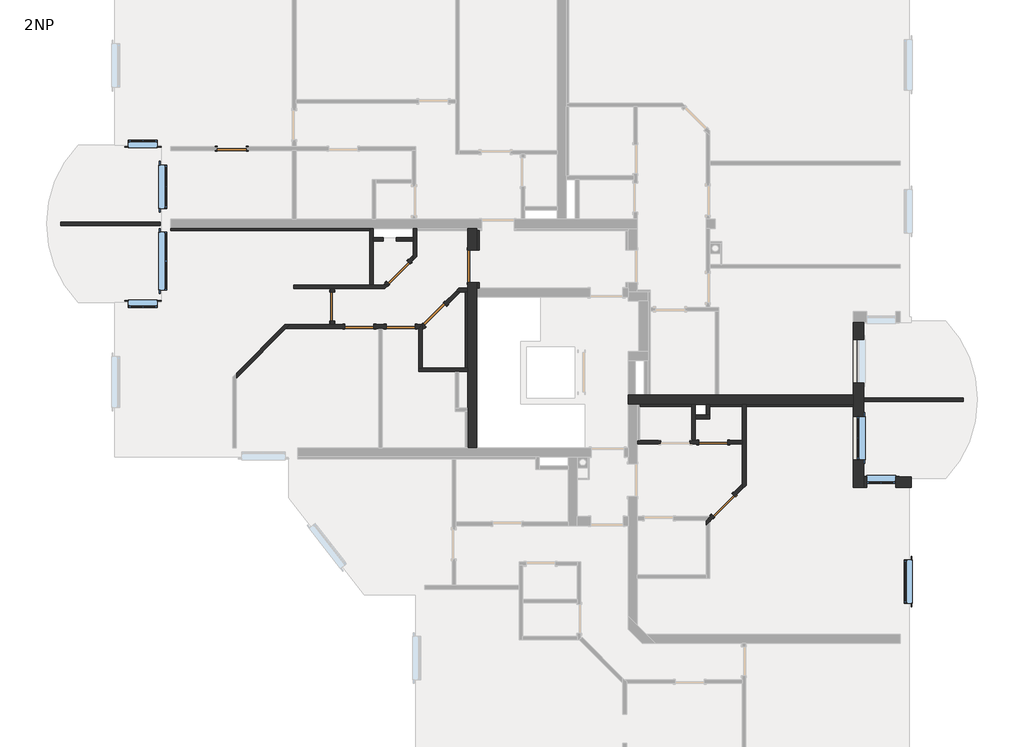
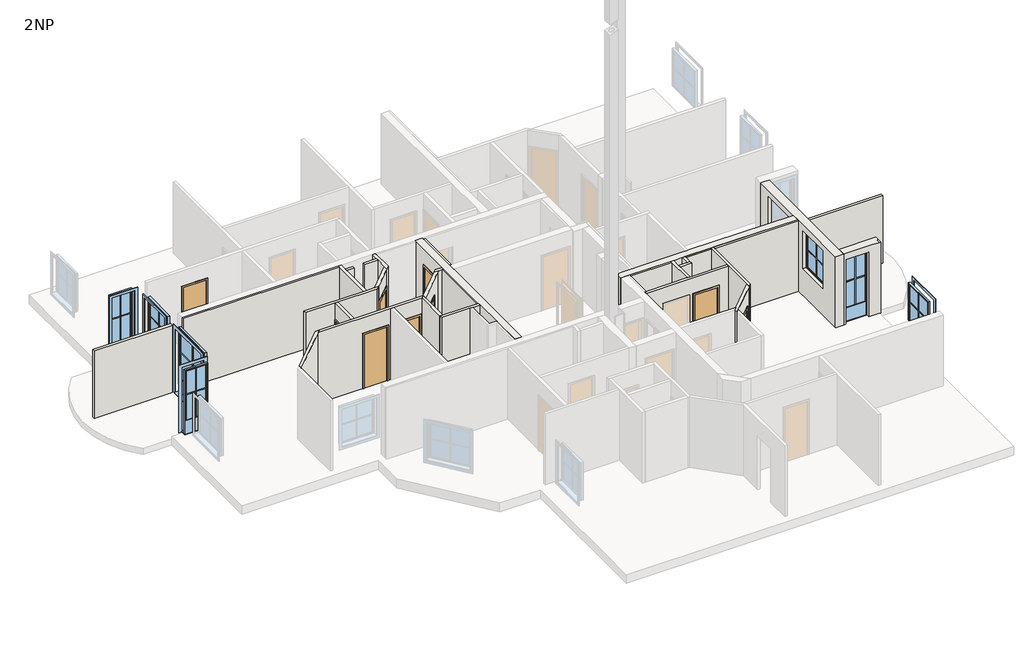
# One storey, part 2 of 4: 31 walls, 9 doors, 7 windows.
"""IFC4 building model written with IfcOpenShell, lengths in millimetres."""

from ifc_helpers import new_model, si_unit, frame, origin, place, context, project, spatial, polyline, outline, extrude, faceted_brep, transform, mapped, element, save
from components import sd_800x2000_6a16926d, sd_800x2000_80f4ff25, sd_900x2000_a6683946, standard_window_with_mullions_80486b60, window_1_87741a49, window_2_4fa60929, window_2_775565f5

model = new_model("IFC4")

# Units and contexts
model_context = context("Model", 3, world=origin())
ifc_project = project(units=[si_unit("LENGTHUNIT", "METRE", prefix="MILLI")], contexts=[model_context])

# Site, building, storey
site = spatial("IfcSite", under=ifc_project)
building = spatial("IfcBuilding", under=site)
storey = spatial("IfcBuildingStorey", under=building, Name="2NP", Elevation=2950.0)

# Doors
placement = place(None, origin())
sd_800x2000_shape = sd_800x2000_6a16926d(model_context)
element("IfcDoor", 1, ObjectType="JednokridlePlne : SD 800x2000", at=placement, inside=storey, context=model_context, shape_type="MappedRepresentation", body=[
    mapped(sd_800x2000_shape, transform((4190.1336236, -3425.7517839, 2950.0), x_axis=(0.7071067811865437, 0.7071067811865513, 0.0), y_axis=(-0.7071067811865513, 0.7071067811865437, 0.0), z_axis=(0.0, 0.0, 1.0))),
])
element("IfcDoor", 2, ObjectType="JednokridlePlne : SD 800x2000", at=placement, inside=storey, context=model_context, shape_type="MappedRepresentation", body=[
    mapped(sd_800x2000_shape, transform((3909.4426418, -1682.3709459, 2950.0), x_axis=(1.0, 0.0, 0.0), y_axis=(0.0, 1.0, 0.0), z_axis=(0.0, 0.0, 1.0))),
])
element("IfcDoor", 3, ObjectType="JednokridlePlne : SD 800x2000", at=placement, inside=storey, context=model_context, shape_type="MappedRepresentation", body=[
    mapped(sd_800x2000_shape, transform((-6585.2845029, 2059.6332752, 2950.0), x_axis=(0.0, -0.9999999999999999, 0.0), y_axis=(0.9999999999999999, 0.0, 0.0), z_axis=(0.0, 0.0, 1.0))),
])
element("IfcDoor", 4, ObjectType="JednokridlePlne : SD 800x2000", at=placement, inside=storey, context=model_context, shape_type="MappedRepresentation", body=[
    mapped(sd_800x2000_shape, transform((-3761.9880664, 1834.1307468, 2950.0), x_axis=(-0.7071067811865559, -0.7071067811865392, 0.0), y_axis=(0.7071067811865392, -0.7071067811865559, 0.0), z_axis=(0.0, 0.0, 1.0))),
])
element("IfcDoor", 5, ObjectType="JednokridlePlne : SD 800x2000", at=placement, inside=storey, context=model_context, shape_type="MappedRepresentation", body=[
    mapped(sd_800x2000_shape, transform((-9362.1962165, 6417.6290541, 2950.0), x_axis=(1.0, 0.0, 0.0), y_axis=(0.0, 1.0, 0.0), z_axis=(0.0, 0.0, 1.0))),
])
sd_800x2000_2_shape = sd_800x2000_80f4ff25(model_context)
element("IfcDoor", 6, ObjectType="JednokridlePlne : SD 800x2000", at=placement, inside=storey, context=model_context, shape_type="MappedRepresentation", body=[
    mapped(sd_800x2000_2_shape, transform((-4767.8017932, 3001.4477772, 2950.0), x_axis=(-0.7071067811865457, -0.7071067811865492, 0.0), y_axis=(0.7071067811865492, -0.7071067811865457, 0.0), z_axis=(0.0, 0.0, 1.0))),
])
element("IfcDoor", 7, ObjectType="JednokridlePlne : SD 800x2000", at=placement, inside=storey, context=model_context, shape_type="MappedRepresentation", body=[
    mapped(sd_800x2000_2_shape, transform((-4707.1962173, 1509.6332748, 2950.0), x_axis=(-0.9999999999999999, 0.0, 0.0), y_axis=(0.0, -0.9999999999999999, 0.0), z_axis=(0.0, 0.0, 1.0))),
])
element("IfcDoor", 8, ObjectType="JednokridlePlne : SD 800x2000", at=placement, inside=storey, context=model_context, shape_type="MappedRepresentation", body=[
    mapped(sd_800x2000_2_shape, transform((-5844.5664107, 1509.6332748, 2950.0), x_axis=(-0.9999999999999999, 0.0, 0.0), y_axis=(0.0, -0.9999999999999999, 0.0), z_axis=(0.0, 0.0, 1.0))),
])
sd_900x2000_shape = sd_900x2000_a6683946(model_context)
element("IfcDoor", 9, ObjectType="JednokridlePlne : SD 900x2000", at=placement, inside=storey, context=model_context, shape_type="MappedRepresentation", body=[
    mapped(sd_900x2000_shape, transform((-2732.1962165, 3171.1987133, 2950.0), x_axis=(0.0, -0.9999999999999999, 0.0), y_axis=(0.9999999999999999, 0.0, 0.0), z_axis=(0.0, 0.0, 1.0))),
])

# Walls
element("IfcWall", 10, ObjectType="Exterior - 100mm", at=placement, inside=storey, context=model_context, shape_type="SweptSolid", body=[
    extrude(outline(polyline([(-14076.3140436, 4392.6290541), (-11337.1962165, 4392.6290541), (-11337.1962165, 4292.6290541), (-14076.3140436, 4292.6290541), (-14076.3140436, 4392.6290541)])), frame((0.0, 0.0, 2850.0), z_axis=(0.0, 0.0, 1.0), x_axis=(1.0, 0.0, 0.0)), (0.0, 0.0, 1.0), 2500.0),
])
element("IfcWall", 11, ObjectType="Exterior - 100mm", at=placement, inside=storey, context=model_context, shape_type="SweptSolid", body=[
    extrude(outline(polyline([(10801.9216105, -557.3709459), (8062.8037835, -557.3709459), (8062.8037835, -457.3709459), (10801.9216105, -457.3709459), (10801.9216105, -557.3709459)])), frame((0.0, 0.0, 2850.0), z_axis=(0.0, 0.0, 1.0), x_axis=(1.0, 0.0, 0.0)), (0.0, 0.0, 1.0), 2500.0),
])
element("IfcWall", 12, ObjectType="Exterior - 250 + 50mm", at=placement, inside=storey, context=model_context, shape_type="Brep", body=[
    faceted_brep([(7762.8037835, 1617.6290541, 2950.0), (7762.8037835, -382.3709459, 2950.0), (7762.8037835, -632.3709459, 2950.0), (7762.8037835, -697.3709459, 2950.0), (7762.8037835, -2932.3709459, 2950.0), (7762.8037835, -2932.3709459, 5580.0), (7762.8037835, -697.3709459, 5580.0), (7762.8037835, -632.3709459, 5580.0), (7762.8037835, -382.3709459, 5580.0), (7762.8037835, 1617.6290541, 5580.0), (7762.8037835, 1155.9947187, 3950.0), (7762.8037835, 1155.9947187, 5350.0), (7762.8037835, -44.0052813, 5350.0), (7762.8037835, -44.0052813, 3950.0), (7762.8037835, -963.5367865, 3950.0), (7762.8037835, -963.5367865, 5350.0), (7762.8037835, -2163.5367865, 5350.0), (7762.8037835, -2163.5367865, 3950.0), (8062.8037835, -2932.3709459, 5580.0), (8062.8037835, -2932.3709459, 2950.0), (8062.8037835, -2632.3709459, 2950.0), (8062.8037835, 1617.6290541, 2950.0), (8062.8037835, 1617.6290541, 5580.0), (8062.8037835, -2632.3709459, 5580.0), (8062.8037835, -2682.3709459, 5580.0), (8062.8037835, 1155.9947187, 5350.0), (8062.8037835, 1155.9947187, 3950.0), (8062.8037835, -44.0052813, 3950.0), (8062.8037835, -44.0052813, 5350.0), (8062.8037835, -963.5367865, 5350.0), (8062.8037835, -963.5367865, 3950.0), (8062.8037835, -2163.5367865, 3950.0), (8062.8037835, -2163.5367865, 5350.0), (8012.8037835, 1617.6290541, 5580.0)], [[[0, 1, 2, 3, 4, 5, 6, 7, 8, 9], [10, 11, 12, 13], [14, 15, 16, 17]], [[18, 19, 20, 21, 22, 23, 24], [25, 26, 27, 28], [29, 30, 31, 32]], [[4, 3, 2, 1, 0, 21, 20, 19]], [[5, 4, 19, 18]], [[0, 9, 33, 22, 21]], [[9, 8, 7, 6, 5, 18, 24, 23, 22, 33]], [[11, 10, 26, 25]], [[12, 11, 25, 28]], [[13, 12, 28, 27]], [[10, 13, 27, 26]], [[15, 14, 30, 29]], [[16, 15, 29, 32]], [[17, 16, 32, 31]], [[14, 17, 31, 30]]]),
])
element("IfcWall", 13, ObjectType="Exterior - 250+50mm", at=placement, inside=storey, context=model_context, shape_type="Brep", body=[
    faceted_brep([(9362.8037835, -2932.3709459, 2950.0), (9362.8037835, -2932.3709459, 5580.0), (9312.8037835, -2932.3709459, 5580.0), (9062.8037835, -2932.3709459, 5580.0), (8062.8037835, -2932.3709459, 5580.0), (8062.8037835, -2932.3709459, 2950.0), (8132.977935, -2932.3709459, 2950.0), (8132.977935, -2932.3709459, 5350.0), (8932.977935, -2932.3709459, 5350.0), (8932.977935, -2932.3709459, 2950.0), (9062.8037835, -2932.3709459, 2950.0), (9312.8037835, -2932.3709459, 2950.0), (9362.8037835, -2632.3709459, 5580.0), (9362.8037835, -2632.3709459, 2950.0), (8932.977935, -2632.3709459, 2950.0), (8932.977935, -2632.3709459, 5350.0), (8132.977935, -2632.3709459, 5350.0), (8132.977935, -2632.3709459, 2950.0), (8062.8037835, -2632.3709459, 2950.0), (8062.8037835, -2632.3709459, 5580.0), (9362.8037835, -2782.3709459, 2950.0), (9362.8037835, -2682.3709459, 5580.0), (9362.8037835, -2782.3709459, 5580.0), (8062.8037835, -2782.3709459, 5580.0), (9312.8037835, -2782.3709459, 5580.0)], [[[0, 1, 2, 3, 4, 5, 6, 7, 8, 9, 10, 11]], [[12, 13, 14, 15, 16, 17, 18, 19]], [[5, 18, 17, 6]], [[9, 14, 13, 20, 0, 11, 10]], [[1, 0, 20, 13, 12, 21, 22]], [[5, 4, 23, 19, 18]], [[1, 22, 24, 2]], [[22, 21, 12, 19, 23, 4, 3, 2, 24]], [[15, 14, 9, 8]], [[16, 15, 8, 7]], [[17, 16, 7, 6]]]),
])
element("IfcWall", 14, ObjectType="Interior - 100mm", at=placement, inside=storey, context=model_context, shape_type="SweptSolid", body=[
    extrude(outline(polyline([(-4827.1962165, 3967.6290541), (-4357.1962165, 3967.6290541), (-4357.1962165, 3867.6290541), (-4827.1962165, 3867.6290541), (-4827.1962165, 3967.6290541)])), frame((0.0, 0.0, 2950.0), z_axis=(0.0, 0.0, 1.0), x_axis=(1.0, 0.0, 0.0)), (0.0, 0.0, 1.0), 2630.0),
])
element("IfcWall", 15, ObjectType="Interior - 100mm", at=placement, inside=storey, context=model_context, shape_type="SweptSolid", body=[
    extrude(outline(polyline([(-5457.1962165, 3967.6290541), (-5187.1962165, 3967.6290541), (-5187.1962165, 3867.6290541), (-5457.1962165, 3867.6290541), (-5457.1962165, 3967.6290541)])), frame((0.0, 0.0, 2950.0), z_axis=(0.0, 0.0, 1.0), x_axis=(1.0, 0.0, 0.0)), (0.0, 0.0, 1.0), 2630.0),
])
element("IfcWall", 16, ObjectType="Interior - 100mm", at=placement, inside=storey, context=model_context, shape_type="Brep", body=[
    faceted_brep([(-5557.1962165, 4217.6290541, 2950.0), (-5557.1962165, 4152.6290541, 2950.0), (-5557.1962165, 2659.6332748, 2950.0), (-5557.1962165, 2659.6332748, 5580.0), (-5557.1962165, 4152.6290541, 5580.0), (-5557.1962165, 4217.6290541, 5580.0), (-5457.1962165, 4217.6290541, 2950.0), (-5457.1962165, 4217.6290541, 5580.0), (-5457.1962165, 3967.6290541, 5580.0), (-5457.1962165, 3867.6290541, 5580.0), (-5457.1962165, 2659.6332748, 5580.0), (-5457.1962165, 2659.6332748, 2950.0), (-5457.1962165, 3867.6290541, 2950.0), (-5457.1962165, 3967.6290541, 2950.0)], [[[0, 1, 2, 3, 4, 5]], [[6, 7, 8, 9, 10, 11, 12, 13]], [[2, 1, 0, 6, 13, 12, 11]], [[0, 5, 7, 6]], [[3, 2, 11, 10]], [[5, 4, 3, 10, 9, 8, 7]]]),
])
element("IfcWall", 17, ObjectType="Interior - 100mm", at=placement, inside=storey, context=model_context, shape_type="Brep", body=[
    faceted_brep([(-4207.1962165, 267.6290541, 2950.0), (-3207.1962165, 267.6290541, 2950.0), (-3107.1962165, 267.6290541, 2950.0), (-2857.1962165, 267.6290541, 2950.0), (-2857.1962165, 267.6290541, 5580.0), (-3107.1962165, 267.6290541, 5580.0), (-3207.1962165, 267.6290541, 5580.0), (-4207.1962165, 267.6290541, 5580.0), (-4207.1962165, 367.6290541, 2950.0), (-4207.1962165, 367.6290541, 5580.0), (-4107.1962165, 367.6290541, 5580.0), (-2922.1962165, 367.6290541, 5580.0), (-2857.1962165, 367.6290541, 5580.0), (-2857.1962165, 367.6290541, 2950.0), (-2922.1962165, 367.6290541, 2950.0), (-4107.1962165, 367.6290541, 2950.0)], [[[0, 1, 2, 3, 4, 5, 6, 7]], [[8, 9, 10, 11, 12, 13, 14, 15]], [[3, 2, 1, 0, 8, 15, 14, 13]], [[0, 7, 9, 8]], [[4, 3, 13, 12]], [[7, 6, 5, 4, 12, 11, 10, 9]]]),
])
element("IfcWall", 18, ObjectType="Interior - 100mm", at=placement, inside=storey, context=model_context, shape_type="Brep", body=[
    faceted_brep([(-4357.1962165, 4217.6290541, 2950.0), (-4357.1962165, 3967.6290541, 2950.0), (-4357.1962165, 3867.6290541, 2950.0), (-4357.1962165, 3482.764032, 2950.0), (-4357.1962165, 3341.3426757, 2950.0), (-4357.1962165, 3341.3426757, 5580.0), (-4357.1962165, 3482.764032, 5580.0), (-4357.1962165, 3867.6290541, 5580.0), (-4357.1962165, 3967.6290541, 5580.0), (-4357.1962165, 4217.6290541, 5580.0), (-4257.1962165, 4217.6290541, 2950.0), (-4257.1962165, 4217.6290541, 5580.0), (-4257.1962165, 3441.3426757, 5580.0), (-4257.1962165, 3441.3426757, 2950.0)], [[[0, 1, 2, 3, 4, 5, 6, 7, 8, 9]], [[10, 11, 12, 13]], [[4, 3, 2, 1, 0, 10, 13]], [[5, 4, 13, 12]], [[0, 9, 11, 10]], [[9, 8, 7, 6, 5, 12, 11]]]),
])
element("IfcWall", 19, ObjectType="Interior - 100mm", at=placement, inside=storey, context=model_context, shape_type="Brep", body=[
    faceted_brep([(-2857.1962165, 2567.6290541, 2950.0), (-3099.2004373, 2567.6290541, 2950.0), (-3099.2004373, 2567.6290541, 5580.0), (-2857.1962165, 2567.6290541, 5580.0), (-2857.1962165, 2467.6290541, 2950.0), (-2857.1962165, 2467.6290541, 5580.0), (-2922.1962165, 2467.6290541, 5580.0), (-3057.779081, 2467.6290541, 5580.0), (-3199.2004373, 2467.6290541, 5580.0), (-3199.2004373, 2467.6290541, 2950.0), (-3057.779081, 2467.6290541, 2950.0), (-2922.1962165, 2467.6290541, 2950.0)], [[[0, 1, 2, 3]], [[4, 5, 6, 7, 8, 9, 10, 11]], [[1, 0, 4, 11, 10, 9]], [[2, 1, 9, 8]], [[0, 3, 5, 4]], [[3, 2, 8, 7, 6, 5]]]),
])
element("IfcWall", 20, ObjectType="Interior - 100mm", at=placement, inside=storey, context=model_context, shape_type="Brep", body=[
    faceted_brep([(-4207.1962165, 1459.6332748, 2950.0), (-4207.1962165, 367.6290541, 2950.0), (-4207.1962165, 367.6290541, 5580.0), (-4207.1962165, 1459.6332748, 5580.0), (-4107.1962165, 1559.6332748, 2950.0), (-4107.1962165, 1559.6332748, 5580.0), (-4107.1962165, 1418.2119186, 5580.0), (-4107.1962165, 367.6290541, 5580.0), (-4107.1962165, 367.6290541, 2950.0), (-4107.1962165, 1418.2119186, 2950.0)], [[[0, 1, 2, 3]], [[4, 5, 6, 7, 8, 9]], [[1, 0, 4, 9, 8]], [[0, 3, 5, 4]], [[2, 1, 8, 7]], [[3, 2, 7, 6, 5]]]),
])
element("IfcWall", 21, ObjectType="Interior - 100mm", at=placement, inside=storey, context=model_context, shape_type="Brep", body=[
    faceted_brep([(4712.8037835, -632.3709459, 2950.0), (4712.8037835, -697.3709459, 2950.0), (4712.8037835, -1632.3709459, 2950.0), (4712.8037835, -1732.3709459, 2950.0), (4712.8037835, -2832.3709459, 2950.0), (4712.8037835, -2973.7923022, 2950.0), (4712.8037835, -2973.7923022, 5580.0), (4712.8037835, -2832.3709459, 5580.0), (4712.8037835, -1732.3709459, 5580.0), (4712.8037835, -1632.3709459, 5580.0), (4712.8037835, -697.3709459, 5580.0), (4712.8037835, -632.3709459, 5580.0), (4812.8037835, -632.3709459, 2950.0), (4812.8037835, -632.3709459, 5580.0), (4812.8037835, -697.3709459, 5580.0), (4812.8037835, -2873.7923022, 5580.0), (4812.8037835, -2873.7923022, 2950.0), (4812.8037835, -697.3709459, 2950.0)], [[[0, 1, 2, 3, 4, 5, 6, 7, 8, 9, 10, 11]], [[12, 13, 14, 15, 16, 17]], [[5, 4, 3, 2, 1, 0, 12, 17, 16]], [[6, 5, 16, 15]], [[0, 11, 13, 12]], [[11, 10, 9, 8, 7, 6, 15, 14, 13]]]),
])
element("IfcWall", 22, ObjectType="Interior - 100mm", at=placement, inside=storey, context=model_context, shape_type="Brep", body=[
    faceted_brep([(4712.8037835, -2832.3709459, 2950.0), (4437.620997, -3107.5537324, 2950.0), (4437.620997, -3107.5537324, 4950.0), (3871.935572, -3673.2391573, 4950.0), (3871.935572, -3673.2391573, 2950.0), (3812.8037835, -3732.3709459, 2950.0), (3712.8037835, -3832.3709459, 2950.0), (3712.8037835, -3832.3709459, 5580.0), (3812.8037835, -3732.3709459, 5580.0), (4712.8037835, -2832.3709459, 5580.0), (4508.3316751, -3178.2644105, 4950.0), (4508.3316751, -3178.2644105, 2950.0), (4712.8037835, -2973.7923022, 2950.0), (4712.8037835, -2973.7923022, 5580.0), (3812.8037835, -3873.7923022, 5580.0), (3712.8037835, -3973.7923022, 5580.0), (3712.8037835, -3973.7923022, 2950.0), (3812.8037835, -3873.7923022, 2950.0), (3942.6462502, -3743.9498355, 2950.0), (3942.6462502, -3743.9498355, 4950.0)], [[[0, 1, 2, 3, 4, 5, 6, 7, 8, 9]], [[10, 11, 12, 13, 14, 15, 16, 17, 18, 19]], [[12, 11, 1, 0]], [[18, 17, 16, 6, 5, 4]], [[7, 6, 16, 15]], [[0, 9, 13, 12]], [[9, 8, 7, 15, 14, 13]], [[2, 1, 11, 10]], [[3, 2, 10, 19]], [[4, 3, 19, 18]]]),
])
element("IfcWall", 23, ObjectType="Interior - 100mm", at=placement, inside=storey, context=model_context, shape_type="Brep", body=[
    faceted_brep([(2465.7332503, -1632.3709459, 4950.0), (2465.7332503, -1632.3709459, 2950.0), (1877.8037835, -1632.3709459, 2950.0), (1812.8079235, -1632.3709459, 2950.0), (1812.8079235, -1632.3709459, 5580.0), (1877.8037835, -1632.3709459, 5580.0), (3312.8037835, -1632.3709459, 5580.0), (3412.8037835, -1632.3709459, 5580.0), (4712.8037835, -1632.3709459, 5580.0), (4712.8037835, -1632.3709459, 2950.0), (4309.4426418, -1632.3709459, 2950.0), (4309.4426418, -1632.3709459, 4950.0), (3509.4426418, -1632.3709459, 4950.0), (3509.4426418, -1632.3709459, 2950.0), (3412.8037835, -1632.3709459, 2950.0), (3312.8037835, -1632.3709459, 2950.0), (3265.7332503, -1632.3709459, 2950.0), (3265.7332503, -1632.3709459, 4950.0), (1812.8078421, -1732.3709459, 2950.0), (2465.7332503, -1732.3709459, 2950.0), (2465.7332503, -1732.3709459, 4950.0), (3265.7332503, -1732.3709459, 4950.0), (3265.7332503, -1732.3709459, 2950.0), (3509.4426418, -1732.3709459, 2950.0), (3509.4426418, -1732.3709459, 4950.0), (4309.4426418, -1732.3709459, 4950.0), (4309.4426418, -1732.3709459, 2950.0), (4712.8037835, -1732.3709459, 2950.0), (4712.8037835, -1732.3709459, 5580.0), (1812.8078421, -1732.3709459, 5580.0)], [[[0, 1, 2, 3, 4, 5, 6, 7, 8, 9, 10, 11, 12, 13, 14, 15, 16, 17]], [[18, 19, 20, 21, 22, 23, 24, 25, 26, 27, 28, 29]], [[27, 26, 10, 9]], [[3, 2, 1, 19, 18]], [[16, 15, 14, 13, 23, 22]], [[4, 3, 18, 29]], [[9, 8, 28, 27]], [[8, 7, 6, 5, 4, 29, 28]], [[11, 10, 26, 25]], [[12, 11, 25, 24]], [[13, 12, 24, 23]], [[20, 19, 1, 0]], [[21, 20, 0, 17]], [[22, 21, 17, 16]]]),
])
element("IfcWall", 24, ObjectType="Interior - 100mm", at=placement, inside=storey, context=model_context, shape_type="Brep", body=[
    faceted_brep([(3312.8037835, -632.3709459, 2950.0), (3312.8037835, -697.3709459, 2950.0), (3312.8037835, -1632.3709459, 2950.0), (3312.8037835, -1632.3709459, 5580.0), (3312.8037835, -697.3709459, 5580.0), (3312.8037835, -632.3709459, 5580.0), (3412.8037835, -632.3709459, 2950.0), (3412.8037835, -632.3709459, 5580.0), (3412.8037835, -932.3709459, 5580.0), (3412.8037835, -1032.3709459, 5580.0), (3412.8037835, -1632.3709459, 5580.0), (3412.8037835, -1632.3709459, 2950.0), (3412.8037835, -1032.3709459, 2950.0), (3412.8037835, -932.3709459, 2950.0)], [[[0, 1, 2, 3, 4, 5]], [[6, 7, 8, 9, 10, 11, 12, 13]], [[2, 1, 0, 6, 13, 12, 11]], [[0, 5, 7, 6]], [[3, 2, 11, 10]], [[5, 4, 3, 10, 9, 8, 7]]]),
])
element("IfcWall", 25, ObjectType="Interior - 100mm", at=placement, inside=storey, context=model_context, shape_type="Brep", body=[
    faceted_brep([(3412.8037835, -1032.3709459, 2950.0), (3812.8037835, -1032.3709459, 2950.0), (3812.8037835, -1032.3709459, 5580.0), (3412.8037835, -1032.3709459, 5580.0), (3412.8037835, -932.3709459, 2950.0), (3412.8037835, -932.3709459, 5580.0), (3712.8037835, -932.3709459, 5580.0), (3812.8037835, -932.3709459, 5580.0), (3812.8037835, -932.3709459, 2950.0), (3712.8037835, -932.3709459, 2950.0)], [[[0, 1, 2, 3]], [[4, 5, 6, 7, 8, 9]], [[1, 0, 4, 9, 8]], [[2, 1, 8, 7]], [[0, 3, 5, 4]], [[3, 2, 7, 6, 5]]]),
])
element("IfcWall", 26, ObjectType="Interior - 100mm", at=placement, inside=storey, context=model_context, shape_type="Brep", body=[
    faceted_brep([(3812.8037835, -932.3709459, 2950.0), (3812.8037835, -697.3709459, 2950.0), (3812.8037835, -632.3709459, 2950.0), (3812.8037835, -632.3709459, 5580.0), (3812.8037835, -697.3709459, 5580.0), (3812.8037835, -932.3709459, 5580.0), (3712.8037835, -932.3709459, 2950.0), (3712.8037835, -932.3709459, 5580.0), (3712.8037835, -632.3709459, 5580.0), (3712.8037835, -632.3709459, 2950.0)], [[[0, 1, 2, 3, 4, 5]], [[6, 7, 8, 9]], [[2, 1, 0, 6, 9]], [[0, 5, 7, 6]], [[3, 2, 9, 8]], [[5, 4, 3, 8, 7]]]),
])
element("IfcWall", 27, ObjectType="Interior - 100mm", at=placement, inside=storey, context=model_context, shape_type="Brep", body=[
    faceted_brep([(-4080.186118, 1586.6433734, 4950.0), (-4080.186118, 1586.6433734, 2950.0), (-4107.1962165, 1559.6332748, 2950.0), (-4107.1962165, 1559.6332748, 5580.0), (-3199.2004373, 2467.6290541, 5580.0), (-3199.2004373, 2467.6290541, 2950.0), (-3514.500693, 2152.3287984, 2950.0), (-3514.500693, 2152.3287984, 4950.0), (-4107.1962165, 1418.2119186, 2950.0), (-4009.4754398, 1515.9326953, 2950.0), (-4009.4754398, 1515.9326953, 4950.0), (-3443.7900149, 2081.6181202, 4950.0), (-3443.7900149, 2081.6181202, 2950.0), (-3057.779081, 2467.6290541, 2950.0), (-3057.779081, 2467.6290541, 5580.0), (-4107.1962165, 1418.2119186, 5580.0)], [[[0, 1, 2, 3, 4, 5, 6, 7]], [[8, 9, 10, 11, 12, 13, 14, 15]], [[2, 1, 9, 8]], [[6, 5, 13, 12]], [[3, 2, 8, 15]], [[5, 4, 14, 13]], [[4, 3, 15, 14]], [[10, 9, 1, 0]], [[11, 10, 0, 7]], [[12, 11, 7, 6]]]),
])
element("IfcWall", 28, ObjectType="Interior - 100mm", at=placement, inside=storey, context=model_context, shape_type="Brep", body=[
    faceted_brep([(-9237.1962165, 79.390695, 2950.0), (-7856.9536367, 1459.6332748, 2950.0), (-7756.9536367, 1559.6332748, 2950.0), (-7756.9536367, 1559.6332748, 5580.0), (-7856.9536367, 1459.6332748, 5580.0), (-9237.1962165, 79.390695, 5580.0), (-9237.1962165, 220.8120513, 2950.0), (-9237.1962165, 220.8120513, 5580.0), (-7898.374993, 1559.6332748, 5580.0), (-7898.374993, 1559.6332748, 2950.0)], [[[0, 1, 2, 3, 4, 5]], [[6, 7, 8, 9]], [[2, 1, 0, 6, 9]], [[3, 2, 9, 8]], [[0, 5, 7, 6]], [[5, 4, 3, 8, 7]]]),
])
element("IfcWall", 29, ObjectType="Interior - 100mm", at=placement, inside=storey, context=model_context, shape_type="Brep", body=[
    faceted_brep([(-7856.9536367, 1459.6332748, 2950.0), (-6244.5664107, 1459.6332748, 2950.0), (-6244.5664107, 1459.6332748, 4950.0), (-5444.5664107, 1459.6332748, 4950.0), (-5444.5664107, 1459.6332748, 2950.0), (-5307.1962165, 1459.6332748, 2950.0), (-5207.1962165, 1459.6332748, 2950.0), (-5107.1962173, 1459.6332748, 2950.0), (-5107.1962173, 1459.6332748, 4950.0), (-4307.1962173, 1459.6332748, 4950.0), (-4307.1962173, 1459.6332748, 2950.0), (-4207.1962165, 1459.6332748, 2950.0), (-4207.1962165, 1459.6332748, 5580.0), (-5207.1962165, 1459.6332748, 5580.0), (-5307.1962165, 1459.6332748, 5580.0), (-7856.9536367, 1459.6332748, 5580.0), (-6244.5664107, 1559.6332748, 4950.0), (-6244.5664107, 1559.6332748, 2950.0), (-6535.2845029, 1559.6332748, 2950.0), (-6635.2845029, 1559.6332748, 2950.0), (-7756.9536367, 1559.6332748, 2950.0), (-7756.9536367, 1559.6332748, 5580.0), (-6635.2845029, 1559.6332748, 5580.0), (-6535.2845029, 1559.6332748, 5580.0), (-4107.1962165, 1559.6332748, 5580.0), (-4107.1962165, 1559.6332748, 2950.0), (-4307.1962173, 1559.6332748, 2950.0), (-4307.1962173, 1559.6332748, 4950.0), (-5107.1962173, 1559.6332748, 4950.0), (-5107.1962173, 1559.6332748, 2950.0), (-5444.5664107, 1559.6332748, 2950.0), (-5444.5664107, 1559.6332748, 4950.0)], [[[0, 1, 2, 3, 4, 5, 6, 7, 8, 9, 10, 11, 12, 13, 14, 15]], [[16, 17, 18, 19, 20, 21, 22, 23, 24, 25, 26, 27, 28, 29, 30, 31]], [[20, 19, 18, 17, 1, 0]], [[26, 25, 11, 10]], [[30, 29, 7, 6, 5, 4]], [[12, 11, 25, 24]], [[0, 15, 21, 20]], [[15, 14, 13, 12, 24, 23, 22, 21]], [[8, 7, 29, 28]], [[9, 8, 28, 27]], [[10, 9, 27, 26]], [[2, 1, 17, 16]], [[3, 2, 16, 31]], [[4, 3, 31, 30]]]),
])
element("IfcWall", 30, ObjectType="Interior - 100mm", at=placement, inside=storey, context=model_context, shape_type="Brep", body=[
    faceted_brep([(-7657.1962165, 2559.6332748, 2950.0), (-6635.2845029, 2559.6332748, 2950.0), (-6535.2845029, 2559.6332748, 2950.0), (-5138.9056174, 2559.6332748, 2950.0), (-5138.9056174, 2559.6332748, 5580.0), (-6535.2845029, 2559.6332748, 5580.0), (-6635.2845029, 2559.6332748, 5580.0), (-7657.1962165, 2559.6332748, 5580.0), (-7657.1962165, 2659.6332748, 2950.0), (-7657.1962165, 2659.6332748, 5580.0), (-5557.1962165, 2659.6332748, 5580.0), (-5457.1962165, 2659.6332748, 5580.0), (-5180.3269737, 2659.6332748, 5580.0), (-5038.9056174, 2659.6332748, 5580.0), (-5038.9056174, 2659.6332748, 2950.0), (-5180.3269737, 2659.6332748, 2950.0), (-5457.1962165, 2659.6332748, 2950.0), (-5557.1962165, 2659.6332748, 2950.0)], [[[0, 1, 2, 3, 4, 5, 6, 7]], [[8, 9, 10, 11, 12, 13, 14, 15, 16, 17]], [[3, 2, 1, 0, 8, 17, 16, 15, 14]], [[0, 7, 9, 8]], [[4, 3, 14, 13]], [[7, 6, 5, 4, 13, 12, 11, 10, 9]]]),
])
element("IfcWall", 31, ObjectType="Interior - 100mm", at=placement, inside=storey, context=model_context, shape_type="Brep", body=[
    faceted_brep([(-5038.9056174, 2659.6332748, 2950.0), (-5015.2891666, 2683.2497257, 2950.0), (-5015.2891666, 2683.2497257, 4950.0), (-4449.6037416, 3248.9351507, 4950.0), (-4449.6037416, 3248.9351507, 2950.0), (-4357.1962165, 3341.3426757, 2950.0), (-4357.1962165, 3341.3426757, 5580.0), (-5038.9056174, 2659.6332748, 5580.0), (-5085.9998447, 2753.9604038, 4950.0), (-5085.9998447, 2753.9604038, 2950.0), (-5180.3269737, 2659.6332748, 2950.0), (-5180.3269737, 2659.6332748, 5580.0), (-4357.1962165, 3482.764032, 5580.0), (-4357.1962165, 3482.764032, 2950.0), (-4520.3144197, 3319.6458288, 2950.0), (-4520.3144197, 3319.6458288, 4950.0)], [[[0, 1, 2, 3, 4, 5, 6, 7]], [[8, 9, 10, 11, 12, 13, 14, 15]], [[10, 9, 1, 0]], [[14, 13, 5, 4]], [[6, 5, 13, 12]], [[0, 7, 11, 10]], [[7, 6, 12, 11]], [[2, 1, 9, 8]], [[3, 2, 8, 15]], [[4, 3, 15, 14]]]),
])
element("IfcWall", 32, ObjectType="Interior - 100mm", at=placement, inside=storey, context=model_context, shape_type="SweptSolid", body=[
    extrude(outline(polyline([(1659.6332752, 4950.0), (1659.6332752, 2950.0), (1559.6332748, 2950.0), (1559.6332748, 5580.0), (2559.6332748, 5580.0), (2559.6332748, 2950.0), (2459.6332752, 2950.0), (2459.6332752, 4950.0), (1659.6332752, 4950.0)])), frame((-6635.2845029, 0.0, 0.0), z_axis=(1.0, 0.0, 0.0), x_axis=(0.0, 1.0, 0.0)), (0.0, 0.0, 1.0), 100.0),
])
element("IfcWall", 33, ObjectType="Interior - 250mm", at=placement, inside=storey, context=model_context, shape_type="Brep", body=[
    faceted_brep([(7762.8037835, -382.3709459, 2950.0), (4062.8037835, -382.3709459, 2950.0), (3962.8037835, -382.3709459, 2950.0), (2177.8037835, -382.3709459, 2950.0), (2112.8037835, -382.3709459, 2950.0), (2012.8037835, -382.3709459, 2950.0), (1762.8087381, -382.3709459, 2950.0), (1562.8087381, -382.3709459, 2950.0), (1562.8087381, -382.3709459, 5580.0), (1762.8087381, -382.3709459, 5580.0), (2012.8037835, -382.3709459, 5580.0), (2112.8037835, -382.3709459, 5580.0), (2177.8037835, -382.3709459, 5580.0), (3962.8037835, -382.3709459, 5580.0), (4062.8037835, -382.3709459, 5580.0), (7762.8037835, -382.3709459, 5580.0), (7762.8037835, -632.3709459, 2950.0), (7762.8037835, -632.3709459, 5580.0), (4812.8037835, -632.3709459, 5580.0), (4712.8037835, -632.3709459, 5580.0), (3812.8037835, -632.3709459, 5580.0), (3712.8037835, -632.3709459, 5580.0), (3412.8037835, -632.3709459, 5580.0), (3312.8037835, -632.3709459, 5580.0), (1812.8087381, -632.3709459, 5580.0), (1562.8087381, -632.3709459, 5580.0), (1562.8087381, -632.3709459, 2950.0), (1812.8087381, -632.3709459, 2950.0), (3312.8037835, -632.3709459, 2950.0), (3412.8037835, -632.3709459, 2950.0), (3712.8037835, -632.3709459, 2950.0), (3812.8037835, -632.3709459, 2950.0), (4712.8037835, -632.3709459, 2950.0), (4812.8037835, -632.3709459, 2950.0)], [[[0, 1, 2, 3, 4, 5, 6, 7, 8, 9, 10, 11, 12, 13, 14, 15]], [[16, 17, 18, 19, 20, 21, 22, 23, 24, 25, 26, 27, 28, 29, 30, 31, 32, 33]], [[7, 6, 5, 4, 3, 2, 1, 0, 16, 33, 32, 31, 30, 29, 28, 27, 26]], [[8, 7, 26, 25]], [[0, 15, 17, 16]], [[15, 14, 13, 12, 11, 10, 9, 8, 25, 24, 23, 22, 21, 20, 19, 18, 17]]]),
])
element("IfcWall", 34, ObjectType="Interior - 250mm", at=placement, inside=storey, context=model_context, shape_type="Brep", body=[
    faceted_brep([(-2857.1962165, 2721.1987133, 4950.0), (-2857.1962165, 2721.1987133, 2950.0), (-2857.1962165, 2567.6290541, 2950.0), (-2857.1962165, 2467.6290541, 2950.0), (-2857.1962165, 367.6290541, 2950.0), (-2857.1962165, 267.6290541, 2950.0), (-2857.1962165, -732.3709459, 2950.0), (-2857.1962165, -832.3709459, 2950.0), (-2857.1962165, -1832.3709459, 2950.0), (-2857.1962165, -1832.3709459, 5580.0), (-2857.1962165, -832.3709459, 5580.0), (-2857.1962165, -732.3709459, 5580.0), (-2857.1962165, 267.6290541, 5580.0), (-2857.1962165, 367.6290541, 5580.0), (-2857.1962165, 2467.6290541, 5580.0), (-2857.1962165, 2567.6290541, 5580.0), (-2857.1962165, 4152.6290541, 5580.0), (-2857.1962165, 4217.6290541, 5580.0), (-2857.1962165, 4217.6290541, 2950.0), (-2857.1962165, 4152.6290541, 2950.0), (-2857.1962165, 3621.1987133, 2950.0), (-2857.1962165, 3621.1987133, 4950.0), (-2607.1962165, -1832.3709459, 2950.0), (-2607.1962165, 2317.6290541, 2950.0), (-2607.1962165, 2567.6290541, 2950.0), (-2607.1962165, 2721.1987133, 2950.0), (-2607.1962165, 2721.1987133, 4950.0), (-2607.1962165, 3621.1987133, 4950.0), (-2607.1962165, 3621.1987133, 2950.0), (-2607.1962165, 4152.6290541, 2950.0), (-2607.1962165, 4217.6290541, 2950.0), (-2607.1962165, 4217.6290541, 5580.0), (-2607.1962165, 4152.6290541, 5580.0), (-2607.1962165, 2567.6290541, 5580.0), (-2607.1962165, 2317.6290541, 5580.0), (-2607.1962165, -1832.3709459, 5580.0)], [[[0, 1, 2, 3, 4, 5, 6, 7, 8, 9, 10, 11, 12, 13, 14, 15, 16, 17, 18, 19, 20, 21]], [[22, 23, 24, 25, 26, 27, 28, 29, 30, 31, 32, 33, 34, 35]], [[8, 7, 6, 5, 4, 3, 2, 1, 25, 24, 23, 22]], [[20, 19, 18, 30, 29, 28]], [[9, 8, 22, 35]], [[18, 17, 31, 30]], [[17, 16, 15, 14, 13, 12, 11, 10, 9, 35, 34, 33, 32, 31]], [[26, 25, 1, 0]], [[27, 26, 0, 21]], [[28, 27, 21, 20]]]),
])
element("IfcWall", 35, ObjectType="Interior - 65mm", at=placement, inside=storey, context=model_context, shape_type="SweptSolid", body=[
    extrude(outline(polyline([(-2922.1962165, 367.6290541), (-2922.1962165, 2467.6290541), (-2857.1962165, 2467.6290541), (-2857.1962165, 367.6290541), (-2922.1962165, 367.6290541)])), frame((0.0, 0.0, 2950.0), z_axis=(0.0, 0.0, 1.0), x_axis=(1.0, 0.0, 0.0)), (0.0, 0.0, 1.0), 2630.0),
])
element("IfcWall", 36, ObjectType="Interior - 65mm", at=placement, inside=storey, context=model_context, shape_type="SweptSolid", body=[
    extrude(outline(polyline([(3312.8037835, -697.3709459), (1877.8037835, -697.3709459), (1877.8037835, -632.3709459), (3312.8037835, -632.3709459), (3312.8037835, -697.3709459)])), frame((0.0, 0.0, 2950.0), z_axis=(0.0, 0.0, 1.0), x_axis=(1.0, 0.0, 0.0)), (0.0, 0.0, 1.0), 2630.0),
])
element("IfcWall", 37, ObjectType="Interior - 65mm", at=placement, inside=storey, context=model_context, shape_type="SweptSolid", body=[
    extrude(outline(polyline([(4712.8037835, -697.3709459), (3812.8037835, -697.3709459), (3812.8037835, -632.3709459), (4712.8037835, -632.3709459), (4712.8037835, -697.3709459)])), frame((0.0, 0.0, 2950.0), z_axis=(0.0, 0.0, 1.0), x_axis=(1.0, 0.0, 0.0)), (0.0, 0.0, 1.0), 2630.0),
])
element("IfcWall", 38, ObjectType="Interior - 65mm", at=placement, inside=storey, context=model_context, shape_type="SweptSolid", body=[
    extrude(outline(polyline([(7762.8037835, -697.3709459), (4812.8037835, -697.3709459), (4812.8037835, -632.3709459), (7762.8037835, -632.3709459), (7762.8037835, -697.3709459)])), frame((0.0, 0.0, 2950.0), z_axis=(0.0, 0.0, 1.0), x_axis=(1.0, 0.0, 0.0)), (0.0, 0.0, 1.0), 2630.0),
])
element("IfcWall", 39, ObjectType="Interior - 65mm", at=placement, inside=storey, context=model_context, shape_type="SweptSolid", body=[
    extrude(outline(polyline([(2721.1987133, 4950.0), (2721.1987133, 2950.0), (2567.6290541, 2950.0), (2567.6290541, 5580.0), (4152.6290541, 5580.0), (4152.6290541, 2950.0), (3621.1987133, 2950.0), (3621.1987133, 4950.0), (2721.1987133, 4950.0)])), frame((-2607.1962165, 0.0, 0.0), z_axis=(1.0, 0.0, 0.0), x_axis=(0.0, 1.0, 0.0)), (0.0, 0.0, 1.0), 65.0),
])
element("IfcWall", 40, ObjectType="Interior - 65mm", at=placement, inside=storey, context=model_context, shape_type="SweptSolid", body=[
    extrude(outline(polyline([(-11037.1962165, 4217.6290541), (-5557.1962165, 4217.6290541), (-5557.1962165, 4152.6290541), (-11037.1962165, 4152.6290541), (-11037.1962165, 4217.6290541)])), frame((0.0, 0.0, 2950.0), z_axis=(0.0, 0.0, 1.0), x_axis=(1.0, 0.0, 0.0)), (0.0, 0.0, 1.0), 2630.0),
])

# Windows
standard_window_with_mullions_shape = standard_window_with_mullions_80486b60(model_context)
element("IfcWindow", 41, ObjectType="Standard Window with mullions : 1200/1400", at=placement, inside=storey, context=model_context, shape_type="MappedRepresentation", body=[
    mapped(standard_window_with_mullions_shape, transform((-11187.1962165, 5367.6290548, 2950.0), x_axis=(0.0, 1.0, 0.0), y_axis=(-1.0, 0.0, 0.0), z_axis=(0.0, 0.0, 1.0))),
])
element("IfcWindow", 42, ObjectType="Standard Window with mullions : 1200/1400", at=placement, inside=storey, context=model_context, shape_type="MappedRepresentation", body=[
    mapped(standard_window_with_mullions_shape, transform((7912.8037835, -1563.5367865, 2950.0), x_axis=(0.0, -1.0, 0.0), y_axis=(1.0, 0.0, 0.0), z_axis=(0.0, 0.0, 1.0))),
])
element("IfcWindow", 43, ObjectType="Standard Window with mullions : 1200/1400", at=placement, inside=storey, context=model_context, shape_type="MappedRepresentation", body=[
    mapped(standard_window_with_mullions_shape, transform((9212.8037835, -5524.0530367, 2950.0), x_axis=(0.0, -1.0, 0.0), y_axis=(1.0, 0.0, 0.0), z_axis=(0.0, 0.0, 1.0))),
])
window_1_shape = window_1_87741a49(model_context)
element("IfcWindow", 44, ObjectType="Window 1 : 1600/2400", at=placement, inside=storey, context=model_context, shape_type="MappedRepresentation", body=[
    mapped(window_1_shape, transform((-11187.1962165, 3317.6290559, 2950.0), x_axis=(0.0, 1.0, 0.0), y_axis=(-1.0, 0.0, 0.0), z_axis=(0.0, 0.0, 1.0))),
])
window_2_shape = window_2_4fa60929(model_context)
element("IfcWindow", 45, ObjectType="Window 2 : 800/2400", at=placement, inside=storey, context=model_context, shape_type="MappedRepresentation", body=[
    mapped(window_2_shape, transform((-11807.3703663, 2067.6290541, 2950.0), x_axis=(1.0, 0.0, 0.0), y_axis=(0.0, 1.0, 0.0), z_axis=(0.0, 0.0, 1.0))),
])
window_2_2_shape = window_2_775565f5(model_context)
element("IfcWindow", 46, ObjectType="Window 2 : 800/2400", at=placement, inside=storey, context=model_context, shape_type="MappedRepresentation", body=[
    mapped(window_2_2_shape, transform((-11807.370388, 6617.6290541, 2950.0), x_axis=(1.0, 0.0, 0.0), y_axis=(0.0, 1.0, 0.0), z_axis=(0.0, 0.0, 1.0))),
])
element("IfcWindow", 47, ObjectType="Window 2 : 800/2400", at=placement, inside=storey, context=model_context, shape_type="MappedRepresentation", body=[
    mapped(window_2_2_shape, transform((8532.977935, -2782.3709459, 2950.0), x_axis=(-1.0, 0.0, 0.0), y_axis=(0.0, -1.0, 0.0), z_axis=(0.0, 0.0, 1.0))),
])

save(model, "model.ifc")
